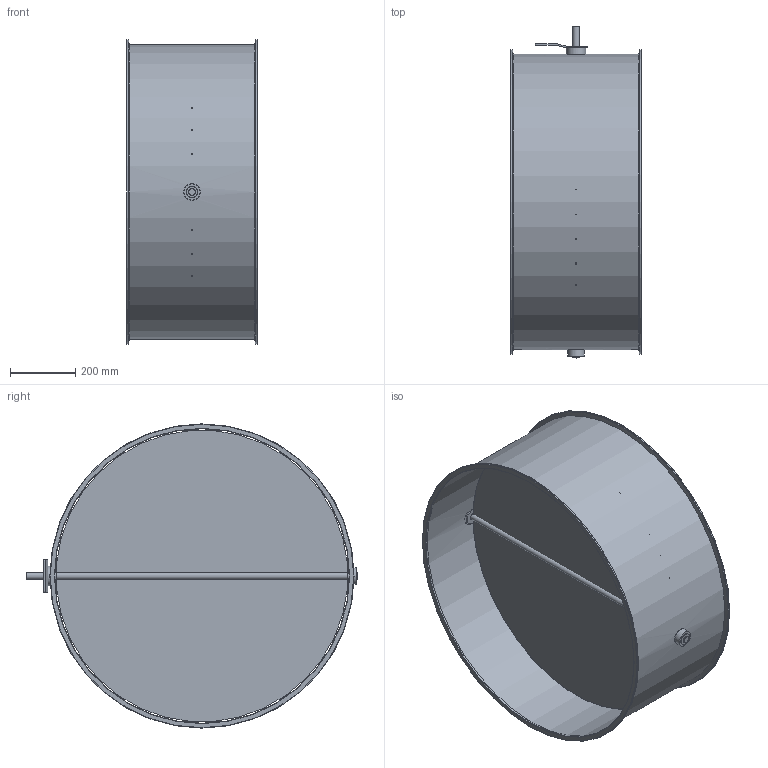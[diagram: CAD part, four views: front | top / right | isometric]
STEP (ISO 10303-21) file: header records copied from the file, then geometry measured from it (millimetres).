
FILE_DESCRIPTION(/* description */ (''),/* implementation_level */ '2;1');
FILE_NAME(/* name */ 'EA116-80B__900_L400_Belimo_Typ_SM.stp',/* time_stamp */ '2017-12-06T17:09:33+01:00',/* author */ (''),/* organization */ (''),/* preprocessor_version */ 'ST-DEVELOPER v11',/* originating_system */ 'SIEMENS UGS NX 6.0',/* authorisation */ '');
FILE_SCHEMA (('CONFIG_CONTROL_DESIGN'));
Length unit declared in the file: millimetre
Products named in the file (1): gars18E2j2q3
Bounding box: 400 x 1015 x 930 mm (x, y, z)
Volume: 3148359.1 mm3; surface area: 3793989 mm2
Topology: 8 solids, 8 shells, 79 faces, 167 edges, 106 vertices
Faces by surface type: plane 36, cylinder 35, torus 6, cone 2
Full cylindrical faces by diameter (mm): 8.1 x7, 20 x3, 35 x3, 35.85 x2, 36 x2, 49 x1, 50 x2, 59 x1, 900 x1, 902.4 x1, 930 x2
Entity records: 2094 total; most frequent: CARTESIAN_POINT 400, DIRECTION 352, ORIENTED_EDGE 248, AXIS2_PLACEMENT_3D 152, EDGE_LOOP 144, EDGE_CURVE 124, FACE_BOUND 114, VERTEX_POINT 96
